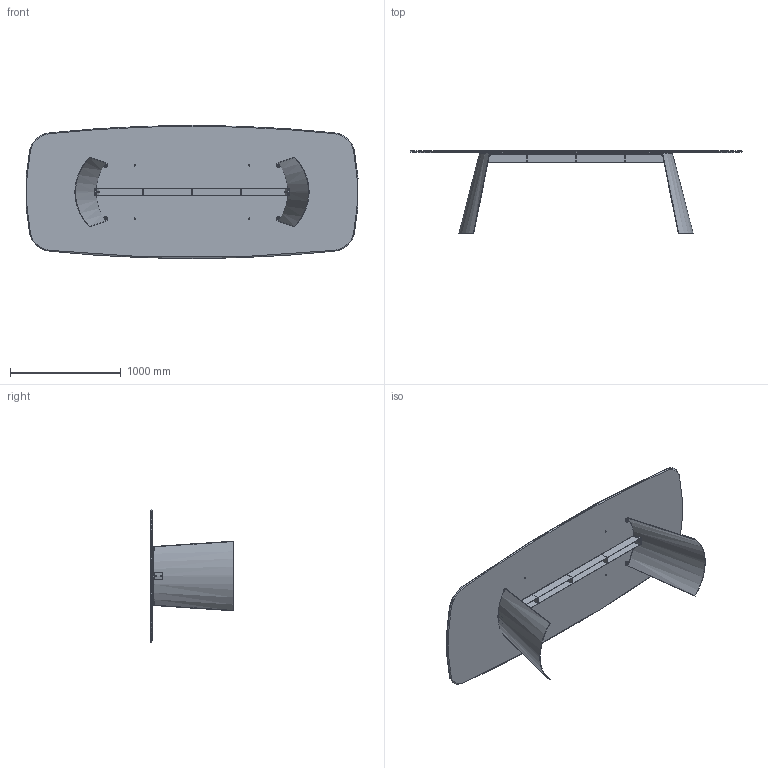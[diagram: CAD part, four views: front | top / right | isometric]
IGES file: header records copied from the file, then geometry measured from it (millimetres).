
Start section: SolidWorks IGES file using analytic representation for surfaces
Global section: file name: Y:\eforma\TECNICO\SOLIDWORKS\E-FORMA\1-TAVOLI\DORIAN\02 parts-rev 01\DN44C_Dorian_300x120x75h_Ceramic Shaped.IGS; native system: SolidWorks 2022; preprocessor: SolidWorks 2022; author: eforma.tech; date: 240807.171638; units: millimetre
Bounding box: 2991.72 x 746 x 1200 mm (x, y, z)
Volume: 59580005 mm3; surface area: 16300053.2 mm2
Topology: 48 solids, 48 shells, 639 faces, 1493 edges, 950 vertices
Faces by surface type: revolution 357, plane 264, bspline 18
